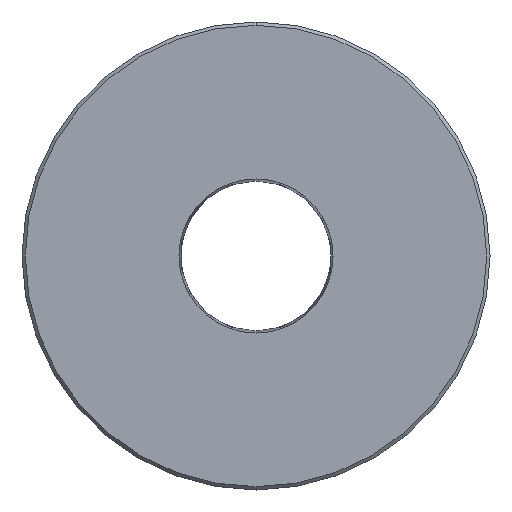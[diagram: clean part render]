
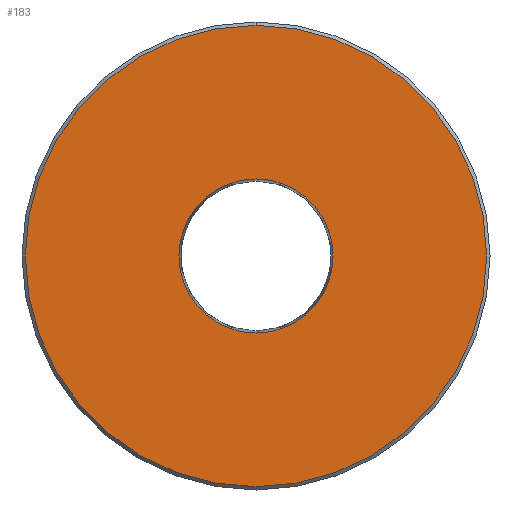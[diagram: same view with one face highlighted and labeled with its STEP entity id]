
A CAD part, front view. The second image highlights one B-rep face of the part: STEP entity #183.
In plain terms, the highlighted planar face has unit normal (0, -1, 0).
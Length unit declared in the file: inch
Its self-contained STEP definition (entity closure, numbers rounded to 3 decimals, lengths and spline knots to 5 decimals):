
#2 = AXIS2_PLACEMENT_3D ( 'NONE', #365, #362, #128 ) ;
#6 = ORIENTED_EDGE ( 'NONE', *, *, #144, .T. ) ;
#34 = DIRECTION ( 'NONE',  ( 0., -1., 0. ) ) ;
#47 = DIRECTION ( 'NONE',  ( 0., -1., 0. ) ) ;
#55 = DIRECTION ( 'NONE',  ( 0., -1., 0. ) ) ;
#58 = ORIENTED_EDGE ( 'NONE', *, *, #67, .T. ) ;
#67 = EDGE_CURVE ( 'NONE', #305, #690, #437, .T. ) ;
#83 = CARTESIAN_POINT ( 'NONE',  ( 0., 0., -1.14433 ) ) ;
#113 = AXIS2_PLACEMENT_3D ( 'NONE', #363, #34, #418 ) ;
#126 = CARTESIAN_POINT ( 'NONE',  ( 0., 0., 0. ) ) ;
#127 = FACE_BOUND ( 'NONE', #541, .T. ) ;
#128 = DIRECTION ( 'NONE',  ( 0., 0., 1. ) ) ;
#144 = EDGE_CURVE ( 'NONE', #690, #305, #222, .T. ) ;
#183 = ADVANCED_FACE ( 'NONE', ( #652, #127 ), #556, .F. ) ;
#222 = CIRCLE ( 'NONE', #439, 3.425 ) ;
#244 = EDGE_LOOP ( 'NONE', ( #6, #58 ) ) ;
#249 = CARTESIAN_POINT ( 'NONE',  ( 0., 0., -3.425 ) ) ;
#268 = AXIS2_PLACEMENT_3D ( 'NONE', #373, #47, #427 ) ;
#292 = DIRECTION ( 'NONE',  ( 0., 1., 0. ) ) ;
#305 = VERTEX_POINT ( 'NONE', #249 ) ;
#314 = CARTESIAN_POINT ( 'NONE',  ( 0., 0., 3.425 ) ) ;
#355 = VERTEX_POINT ( 'NONE', #83 ) ;
#359 = CARTESIAN_POINT ( 'NONE',  ( 0., 0., 1.14433 ) ) ;
#362 = DIRECTION ( 'NONE',  ( 0., -1., 0. ) ) ;
#363 = CARTESIAN_POINT ( 'NONE',  ( 0., 0., 0. ) ) ;
#365 = CARTESIAN_POINT ( 'NONE',  ( 0., 0., 0. ) ) ;
#366 = VERTEX_POINT ( 'NONE', #359 ) ;
#369 = CIRCLE ( 'NONE', #268, 1.14433 ) ;
#373 = CARTESIAN_POINT ( 'NONE',  ( 0., 0., 0. ) ) ;
#380 = ORIENTED_EDGE ( 'NONE', *, *, #520, .F. ) ;
#418 = DIRECTION ( 'NONE',  ( 0., 0., -1. ) ) ;
#427 = DIRECTION ( 'NONE',  ( 0., 0., -1. ) ) ;
#437 = CIRCLE ( 'NONE', #2, 3.425 ) ;
#439 = AXIS2_PLACEMENT_3D ( 'NONE', #126, #55, #613 ) ;
#520 = EDGE_CURVE ( 'NONE', #355, #366, #369, .T. ) ;
#541 = EDGE_LOOP ( 'NONE', ( #380, #686 ) ) ;
#556 = PLANE ( 'NONE',  #733 ) ;
#613 = DIRECTION ( 'NONE',  ( 0., 0., 1. ) ) ;
#624 = CARTESIAN_POINT ( 'NONE',  ( 0., 0., 0. ) ) ;
#652 = FACE_OUTER_BOUND ( 'NONE', #244, .T. ) ;
#685 = EDGE_CURVE ( 'NONE', #366, #355, #739, .T. ) ;
#686 = ORIENTED_EDGE ( 'NONE', *, *, #685, .F. ) ;
#690 = VERTEX_POINT ( 'NONE', #314 ) ;
#697 = DIRECTION ( 'NONE',  ( 0., 0., 1. ) ) ;
#733 = AXIS2_PLACEMENT_3D ( 'NONE', #624, #292, #697 ) ;
#739 = CIRCLE ( 'NONE', #113, 1.14433 ) ;
